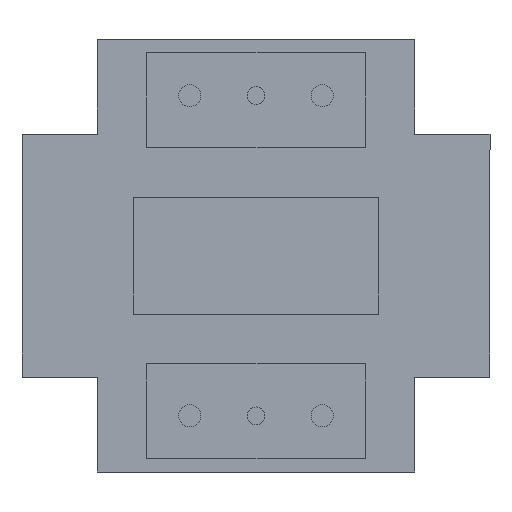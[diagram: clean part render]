
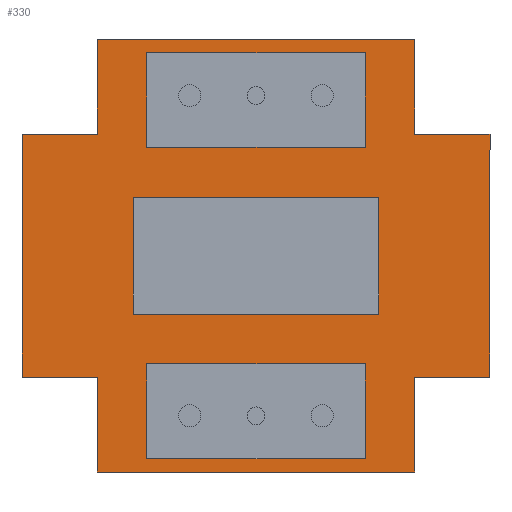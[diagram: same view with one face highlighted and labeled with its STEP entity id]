
A CAD part, top view. The second image highlights one B-rep face of the part: STEP entity #330.
In plain terms, the highlighted planar face has unit normal (0, 0, 1).
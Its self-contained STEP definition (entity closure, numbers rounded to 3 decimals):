
#330=ADVANCED_FACE('',(#647,#648,#649,#650),#501,.T.);
#501=PLANE('',#3606);
#647=FACE_BOUND('',#800,.T.);
#648=FACE_BOUND('',#801,.T.);
#649=FACE_BOUND('',#802,.T.);
#650=FACE_BOUND('',#803,.T.);
#800=EDGE_LOOP('',(#1326,#1327,#1328,#1329));
#801=EDGE_LOOP('',(#1330,#1331,#1332,#1333));
#802=EDGE_LOOP('',(#1334,#1335,#1336,#1337,#1338,#1339,#1340,#1341,#1342,
#1343,#1344,#1345));
#803=EDGE_LOOP('',(#1346,#1347,#1348,#1349));
#1326=ORIENTED_EDGE('',*,*,#2374,.F.);
#1327=ORIENTED_EDGE('',*,*,#2375,.F.);
#1328=ORIENTED_EDGE('',*,*,#2376,.F.);
#1329=ORIENTED_EDGE('',*,*,#2377,.F.);
#1330=ORIENTED_EDGE('',*,*,#2378,.F.);
#1331=ORIENTED_EDGE('',*,*,#2379,.F.);
#1332=ORIENTED_EDGE('',*,*,#2380,.F.);
#1333=ORIENTED_EDGE('',*,*,#2381,.F.);
#1334=ORIENTED_EDGE('',*,*,#2382,.F.);
#1335=ORIENTED_EDGE('',*,*,#2383,.F.);
#1336=ORIENTED_EDGE('',*,*,#2384,.F.);
#1337=ORIENTED_EDGE('',*,*,#2385,.F.);
#1338=ORIENTED_EDGE('',*,*,#2386,.F.);
#1339=ORIENTED_EDGE('',*,*,#2387,.F.);
#1340=ORIENTED_EDGE('',*,*,#2388,.F.);
#1341=ORIENTED_EDGE('',*,*,#2389,.F.);
#1342=ORIENTED_EDGE('',*,*,#2390,.F.);
#1343=ORIENTED_EDGE('',*,*,#2391,.F.);
#1344=ORIENTED_EDGE('',*,*,#2392,.F.);
#1345=ORIENTED_EDGE('',*,*,#2393,.F.);
#1346=ORIENTED_EDGE('',*,*,#2394,.T.);
#1347=ORIENTED_EDGE('',*,*,#2395,.T.);
#1348=ORIENTED_EDGE('',*,*,#2396,.T.);
#1349=ORIENTED_EDGE('',*,*,#2397,.T.);
#1994=VERTEX_POINT('',#5007);
#1995=VERTEX_POINT('',#5008);
#1996=VERTEX_POINT('',#5010);
#1997=VERTEX_POINT('',#5012);
#1998=VERTEX_POINT('',#5015);
#1999=VERTEX_POINT('',#5016);
#2000=VERTEX_POINT('',#5018);
#2001=VERTEX_POINT('',#5020);
#2002=VERTEX_POINT('',#5023);
#2003=VERTEX_POINT('',#5024);
#2004=VERTEX_POINT('',#5026);
#2005=VERTEX_POINT('',#5028);
#2006=VERTEX_POINT('',#5030);
#2007=VERTEX_POINT('',#5032);
#2008=VERTEX_POINT('',#5034);
#2009=VERTEX_POINT('',#5036);
#2010=VERTEX_POINT('',#5038);
#2011=VERTEX_POINT('',#5040);
#2012=VERTEX_POINT('',#5042);
#2013=VERTEX_POINT('',#5044);
#2014=VERTEX_POINT('',#5047);
#2015=VERTEX_POINT('',#5048);
#2016=VERTEX_POINT('',#5050);
#2017=VERTEX_POINT('',#5052);
#2374=EDGE_CURVE('',#1994,#1995,#2818,.T.);
#2375=EDGE_CURVE('',#1996,#1994,#2819,.T.);
#2376=EDGE_CURVE('',#1997,#1996,#2820,.T.);
#2377=EDGE_CURVE('',#1995,#1997,#2821,.T.);
#2378=EDGE_CURVE('',#1998,#1999,#2822,.T.);
#2379=EDGE_CURVE('',#2000,#1998,#2823,.T.);
#2380=EDGE_CURVE('',#2001,#2000,#2824,.T.);
#2381=EDGE_CURVE('',#1999,#2001,#2825,.T.);
#2382=EDGE_CURVE('',#2002,#2003,#2826,.T.);
#2383=EDGE_CURVE('',#2004,#2002,#2827,.T.);
#2384=EDGE_CURVE('',#2005,#2004,#2828,.T.);
#2385=EDGE_CURVE('',#2006,#2005,#2829,.T.);
#2386=EDGE_CURVE('',#2007,#2006,#2830,.T.);
#2387=EDGE_CURVE('',#2008,#2007,#2831,.T.);
#2388=EDGE_CURVE('',#2009,#2008,#2832,.T.);
#2389=EDGE_CURVE('',#2010,#2009,#2833,.T.);
#2390=EDGE_CURVE('',#2011,#2010,#2834,.T.);
#2391=EDGE_CURVE('',#2012,#2011,#2835,.T.);
#2392=EDGE_CURVE('',#2013,#2012,#2836,.T.);
#2393=EDGE_CURVE('',#2003,#2013,#2837,.T.);
#2394=EDGE_CURVE('',#2014,#2015,#2838,.T.);
#2395=EDGE_CURVE('',#2015,#2016,#2839,.T.);
#2396=EDGE_CURVE('',#2016,#2017,#2840,.T.);
#2397=EDGE_CURVE('',#2017,#2014,#2841,.T.);
#2818=LINE('',#5006,#3250);
#2819=LINE('',#5009,#3251);
#2820=LINE('',#5011,#3252);
#2821=LINE('',#5013,#3253);
#2822=LINE('',#5014,#3254);
#2823=LINE('',#5017,#3255);
#2824=LINE('',#5019,#3256);
#2825=LINE('',#5021,#3257);
#2826=LINE('',#5022,#3258);
#2827=LINE('',#5025,#3259);
#2828=LINE('',#5027,#3260);
#2829=LINE('',#5029,#3261);
#2830=LINE('',#5031,#3262);
#2831=LINE('',#5033,#3263);
#2832=LINE('',#5035,#3264);
#2833=LINE('',#5037,#3265);
#2834=LINE('',#5039,#3266);
#2835=LINE('',#5041,#3267);
#2836=LINE('',#5043,#3268);
#2837=LINE('',#5045,#3269);
#2838=LINE('',#5046,#3270);
#2839=LINE('',#5049,#3271);
#2840=LINE('',#5051,#3272);
#2841=LINE('',#5053,#3273);
#3250=VECTOR('',#4106,1.);
#3251=VECTOR('',#4107,1.);
#3252=VECTOR('',#4108,1.);
#3253=VECTOR('',#4109,1.);
#3254=VECTOR('',#4110,1.);
#3255=VECTOR('',#4111,1.);
#3256=VECTOR('',#4112,1.);
#3257=VECTOR('',#4113,1.);
#3258=VECTOR('',#4114,1.);
#3259=VECTOR('',#4115,1.);
#3260=VECTOR('',#4116,1.);
#3261=VECTOR('',#4117,1.);
#3262=VECTOR('',#4118,1.);
#3263=VECTOR('',#4119,1.);
#3264=VECTOR('',#4120,1.);
#3265=VECTOR('',#4121,1.);
#3266=VECTOR('',#4122,1.);
#3267=VECTOR('',#4123,1.);
#3268=VECTOR('',#4124,1.);
#3269=VECTOR('',#4125,1.);
#3270=VECTOR('',#4126,1.);
#3271=VECTOR('',#4127,1.);
#3272=VECTOR('',#4128,1.);
#3273=VECTOR('',#4129,1.);
#3606=AXIS2_PLACEMENT_3D('',#5054,#4130,#4131);
#4106=DIRECTION('',(-1.,0.,0.));
#4107=DIRECTION('',(0.,1.,0.));
#4108=DIRECTION('',(1.,0.,0.));
#4109=DIRECTION('',(0.,-1.,0.));
#4110=DIRECTION('',(1.,0.,0.));
#4111=DIRECTION('',(0.,-1.,0.));
#4112=DIRECTION('',(-1.,0.,0.));
#4113=DIRECTION('',(0.,1.,0.));
#4114=DIRECTION('',(0.,1.,0.));
#4115=DIRECTION('',(-1.,0.,0.));
#4116=DIRECTION('',(0.,-1.,0.));
#4117=DIRECTION('',(-1.,0.,0.));
#4118=DIRECTION('',(0.,-1.,0.));
#4119=DIRECTION('',(1.,0.,0.));
#4120=DIRECTION('',(0.,-1.,0.));
#4121=DIRECTION('',(1.,0.,0.));
#4122=DIRECTION('',(0.,1.,0.));
#4123=DIRECTION('',(1.,0.,0.));
#4124=DIRECTION('',(0.,1.,0.));
#4125=DIRECTION('',(-1.,0.,0.));
#4126=DIRECTION('',(0.,-1.,0.));
#4127=DIRECTION('',(-1.,0.,0.));
#4128=DIRECTION('',(0.,1.,0.));
#4129=DIRECTION('',(1.,0.,0.));
#4130=DIRECTION('',(0.,0.,1.));
#4131=DIRECTION('',(1.,0.,0.));
#5006=CARTESIAN_POINT('',(0.,-24.5,16.));
#5007=CARTESIAN_POINT('',(24.75,-24.5,16.));
#5008=CARTESIAN_POINT('',(-24.75,-24.5,16.));
#5009=CARTESIAN_POINT('',(24.75,0.,16.));
#5010=CARTESIAN_POINT('',(24.75,-46.,16.));
#5011=CARTESIAN_POINT('',(0.,-46.,16.));
#5012=CARTESIAN_POINT('',(-24.75,-46.,16.));
#5013=CARTESIAN_POINT('',(-24.75,0.,16.));
#5014=CARTESIAN_POINT('',(0.,24.5,16.));
#5015=CARTESIAN_POINT('',(-24.75,24.5,16.));
#5016=CARTESIAN_POINT('',(24.75,24.5,16.));
#5017=CARTESIAN_POINT('',(-24.75,0.,16.));
#5018=CARTESIAN_POINT('',(-24.75,46.,16.));
#5019=CARTESIAN_POINT('',(0.,46.,16.));
#5020=CARTESIAN_POINT('',(24.75,46.,16.));
#5021=CARTESIAN_POINT('',(24.75,0.,16.));
#5022=CARTESIAN_POINT('',(-36.,0.,16.));
#5023=CARTESIAN_POINT('',(-36.,-49.,16.));
#5024=CARTESIAN_POINT('',(-36.,-27.5,16.));
#5025=CARTESIAN_POINT('',(0.,-49.,16.));
#5026=CARTESIAN_POINT('',(36.,-49.,16.));
#5027=CARTESIAN_POINT('',(36.,0.,16.));
#5028=CARTESIAN_POINT('',(36.,-27.5,16.));
#5029=CARTESIAN_POINT('',(0.,-27.5,16.));
#5030=CARTESIAN_POINT('',(53.,-27.5,16.));
#5031=CARTESIAN_POINT('',(53.,0.,16.));
#5032=CARTESIAN_POINT('',(53.,27.5,16.));
#5033=CARTESIAN_POINT('',(0.,27.5,16.));
#5034=CARTESIAN_POINT('',(36.,27.5,16.));
#5035=CARTESIAN_POINT('',(36.,0.,16.));
#5036=CARTESIAN_POINT('',(36.,49.,16.));
#5037=CARTESIAN_POINT('',(0.,49.,16.));
#5038=CARTESIAN_POINT('',(-36.,49.,16.));
#5039=CARTESIAN_POINT('',(-36.,0.,16.));
#5040=CARTESIAN_POINT('',(-36.,27.5,16.));
#5041=CARTESIAN_POINT('',(0.,27.5,16.));
#5042=CARTESIAN_POINT('',(-53.,27.5,16.));
#5043=CARTESIAN_POINT('',(-53.,0.,16.));
#5044=CARTESIAN_POINT('',(-53.,-27.5,16.));
#5045=CARTESIAN_POINT('',(0.,-27.5,16.));
#5046=CARTESIAN_POINT('',(27.75,0.,16.));
#5047=CARTESIAN_POINT('',(27.75,13.25,16.));
#5048=CARTESIAN_POINT('',(27.75,-13.25,16.));
#5049=CARTESIAN_POINT('',(0.,-13.25,16.));
#5050=CARTESIAN_POINT('',(-27.75,-13.25,16.));
#5051=CARTESIAN_POINT('',(-27.75,0.,16.));
#5052=CARTESIAN_POINT('',(-27.75,13.25,16.));
#5053=CARTESIAN_POINT('',(0.,13.25,16.));
#5054=CARTESIAN_POINT('',(0.,0.,16.));
